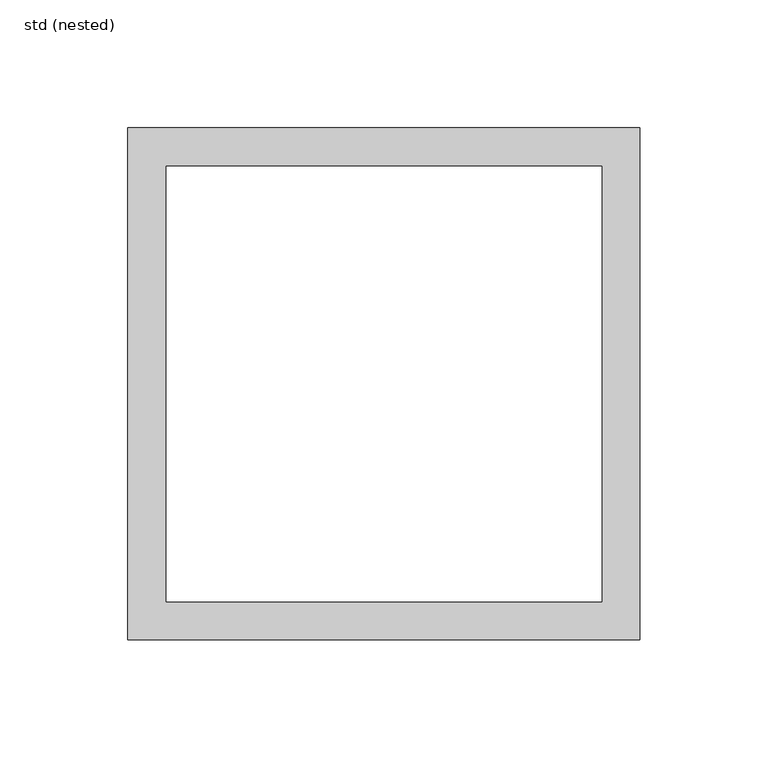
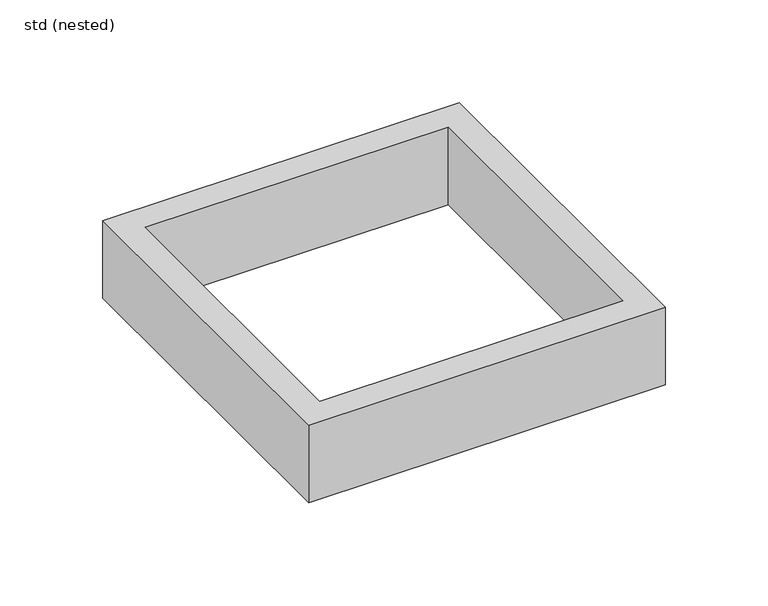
"""IFC4 building model written with IfcOpenShell, lengths in millimetres: sanitary terminal geometry, ZZZ_do_not_use_PF_CI_UN_top frame_ACO : std (nested)."""

import ifcopenshell
import ifcopenshell.guid

model = None  # the IFC model being written
_history = None  # IfcOwnerHistory: only IFC2X3 demands one
_inside = {}  # id of a spatial element -> (the spatial element, [elements in it])
_under = {}  # id of a project, library or spatial element -> (it, [spatial elements below it])
_declared = {}  # id of a project -> (the project, [libraries it declares])
_typed = {}  # id of a type object -> (the type object, [elements of that type])
_made_of = {}  # id of a material, layer set ... -> (it, [elements and type objects made of it])


def new_model(schema):
    """Start an empty IFC model of exactly this schema.

    Asked for "IFC4X3", IfcOpenShell would pick the latest addendum, in which some entities
    have other attributes; the version numbers below select the first issue.
    IFC2X3 requires an IfcOwnerHistory on every rooted entity: one is made here for all.
    """
    global model, _history
    if schema == "IFC4X3":
        model = ifcopenshell.file(schema_version=(4, 3, 0, 0))
    else:
        model = ifcopenshell.file(schema=schema)
    _inside.clear()
    _under.clear()
    _declared.clear()
    _typed.clear()
    _made_of.clear()
    _history = None
    if model.schema == "IFC2X3":
        org = make("IfcOrganization", Name="unknown")
        user = make(
            "IfcPersonAndOrganization",
            ThePerson=make("IfcPerson", FamilyName="unknown"),
            TheOrganization=org,
        )
        app = make(
            "IfcApplication",
            ApplicationDeveloper=org,
            Version="unknown",
            ApplicationFullName="unknown",
            ApplicationIdentifier="unknown",
        )
        _history = make(
            "IfcOwnerHistory",
            OwningUser=user,
            OwningApplication=app,
            ChangeAction="ADDED",
            CreationDate=0,
        )
    return model


def make(cls, **values):
    """One entity of the class cls with the attributes given. An attribute that is None is left unset."""
    return model.create_entity(
        cls, **{name: value for name, value in values.items() if value is not None}
    )


def rooted(cls, **values):
    """An entity with a GlobalId (a new one), such as an element, a storey or a relation."""
    return make(cls, GlobalId=ifcopenshell.guid.new(), OwnerHistory=_history, **values)


def si_unit(unit_type, name, prefix=None):
    """IfcSIUnit, for example si_unit("LENGTHUNIT", "METRE", prefix="MILLI")."""
    return make("IfcSIUnit", UnitType=unit_type, Prefix=prefix, Name=name)


def assignment(units):
    """IfcUnitAssignment: the units of a project."""
    return None if units is None else make("IfcUnitAssignment", Units=units)


def point(xyz):
    """IfcCartesianPoint."""
    return None if xyz is None else make("IfcCartesianPoint", Coordinates=xyz)


def direction(xyz):
    """IfcDirection."""
    return None if xyz is None else make("IfcDirection", DirectionRatios=xyz)


def frame(location, z_axis=None, x_axis=None):
    """IfcAxis2Placement3D, a coordinate frame: its origin and axes. An axis left out is left unset."""
    return make(
        "IfcAxis2Placement3D",
        Location=point(location),
        Axis=direction(z_axis),
        RefDirection=direction(x_axis),
    )


def origin():
    """The frame at (0, 0, 0) with its axes left unset."""
    return frame((0.0, 0.0, 0.0))


def place(relative_to, where):
    """IfcLocalPlacement: puts the frame where relative to a parent placement (None: the world)."""
    return make(
        "IfcLocalPlacement", PlacementRelTo=relative_to, RelativePlacement=where
    )


def context(
    kind, dimensions, precision=None, world=None, true_north=None, identifier=None
):
    """IfcGeometricRepresentationContext, for example the 3D "Model" context."""
    return make(
        "IfcGeometricRepresentationContext",
        ContextIdentifier=identifier,
        ContextType=kind,
        CoordinateSpaceDimension=dimensions,
        Precision=precision,
        WorldCoordinateSystem=world,
        TrueNorth=true_north,
    )


def project(units=None, contexts=None):
    """IfcProject with its units and contexts."""
    return rooted(
        "IfcProject",
        Name="project",
        RepresentationContexts=contexts,
        UnitsInContext=assignment(units),
    )


def spatial(cls, under=None, at=None, **own):
    """A site, building, storey or space (cls), placed at a placement, below another one or the project."""
    s = rooted(cls, ObjectPlacement=at, **own)
    if under is not None:
        _under.setdefault(under.id(), (under, []))[1].append(s)
    return s


def polyline(points):
    """IfcPolyline through the points."""
    return make("IfcPolyline", Points=[point(p) for p in points])


def outline(outer, holes=None, kind="AREA"):
    """IfcArbitraryClosedProfileDef: a profile drawn as a closed curve; with holes, ...WithVoids."""
    if holes is None:
        return make("IfcArbitraryClosedProfileDef", ProfileType=kind, OuterCurve=outer)
    return make(
        "IfcArbitraryProfileDefWithVoids",
        ProfileType=kind,
        OuterCurve=outer,
        InnerCurves=holes,
    )


def extrude(swept, where, along, depth):
    """IfcExtrudedAreaSolid: the profile swept, set in the frame where, extruded along a direction by depth."""
    return make(
        "IfcExtrudedAreaSolid",
        SweptArea=swept,
        Position=where,
        ExtrudedDirection=direction(along),
        Depth=depth,
    )


def shape(context_of_items, identifier, shape_type, items):
    """IfcShapeRepresentation: the items that make up one representation, for example the "Body"."""
    return make(
        "IfcShapeRepresentation",
        ContextOfItems=context_of_items,
        RepresentationIdentifier=identifier,
        RepresentationType=shape_type,
        Items=items,
    )


def source(mapping_origin, context_of_items, identifier, shape_type, items):
    """IfcRepresentationMap: a shape defined once, which mapped items show again and again."""
    return make(
        "IfcRepresentationMap",
        MappingOrigin=mapping_origin,
        MappedRepresentation=shape(context_of_items, identifier, shape_type, items),
    )


def transform(
    local_origin,
    x_axis=None,
    y_axis=None,
    z_axis=None,
    scale=None,
    scale2=None,
    scale3=None,
    uniform=True,
):
    """IfcCartesianTransformationOperator3D, or its non-uniform kind. x_axis, y_axis, z_axis: its Axis1, 2, 3."""
    if uniform:
        return make(
            "IfcCartesianTransformationOperator3D",
            Axis1=direction(x_axis),
            Axis2=direction(y_axis),
            LocalOrigin=point(local_origin),
            Scale=scale,
            Axis3=direction(z_axis),
        )
    return make(
        "IfcCartesianTransformationOperator3DnonUniform",
        Axis1=direction(x_axis),
        Axis2=direction(y_axis),
        LocalOrigin=point(local_origin),
        Scale=scale,
        Axis3=direction(z_axis),
        Scale2=scale2,
        Scale3=scale3,
    )


def mapped(mapping_source, mapping_target):
    """IfcMappedItem: shows the shape of a source again, moved by a transform."""
    return make(
        "IfcMappedItem", MappingSource=mapping_source, MappingTarget=mapping_target
    )


def made_of(thing, what):
    """Note that an element or type object is made of a material, layer set ...; save() writes the relation."""
    if what is not None:
        _made_of.setdefault(what.id(), (what, []))[1].append(thing)
    return thing


def element(
    cls,
    number,
    at=None,
    inside=None,
    cuts=None,
    type_object=None,
    material=None,
    context=None,
    identifier="Body",
    shape_type=None,
    held_by="IfcProductDefinitionShape",
    body=None,
    shapes=None,
    **own,
):
    """One element of the class cls, such as IfcWall. Its Tag is "e" and its number.

    at: its placement. inside: the storey or other place that contains it. cuts: it is an
    opening in that element (IfcRelVoidsElement). A single representation is given by context,
    identifier, shape_type and body (its items); several are given by shapes. held_by: the class
    of the entity that holds the representations. save() writes the other relations.
    """
    e = rooted(cls, Tag="e%d" % number, ObjectPlacement=at, **own)
    if body is not None:
        shapes = [shape(context, identifier, shape_type, body)]
    if shapes is not None:
        e.Representation = make(held_by, Representations=shapes)
    if inside is not None:
        _inside.setdefault(inside.id(), (inside, []))[1].append(e)
    if cuts is not None:
        rooted(
            "IfcRelVoidsElement", RelatingBuildingElement=cuts, RelatedOpeningElement=e
        )
    if type_object is not None:
        _typed.setdefault(type_object.id(), (type_object, []))[1].append(e)
    return made_of(e, material)


def aggregate(whole, parts):
    """IfcRelAggregates: a whole, such as a stair, and the parts it consists of."""
    return rooted("IfcRelAggregates", RelatingObject=whole, RelatedObjects=parts)


def save(model, path):
    """Write the relations noted so far, then the file.

    IfcRelAggregates (storeys below a building ...), IfcRelContainedInSpatialStructure (elements
    in a storey), IfcRelDefinesByType, IfcRelAssociatesMaterial and IfcRelDeclares: one each for
    every whole, place, type object, material and project.
    """
    for whole, parts in _under.values():
        aggregate(whole, parts)
    for where, things in _inside.values():
        rooted(
            "IfcRelContainedInSpatialStructure",
            RelatedElements=things,
            RelatingStructure=where,
        )
    for kind, things in _typed.values():
        rooted("IfcRelDefinesByType", RelatedObjects=things, RelatingType=kind)
    for what, things in _made_of.values():
        rooted("IfcRelAssociatesMaterial", RelatedObjects=things, RelatingMaterial=what)
    for by, libraries in _declared.values():
        rooted("IfcRelDeclares", RelatingContext=by, RelatedDefinitions=libraries)
    model.write(path)


def std_nested_6f6e67ac(model_context):
    return source(origin(), model_context, "Body", "SweptSolid", [
        extrude(outline(polyline([(100.0, 100.0), (100.0, -100.0), (-100.0, -100.0), (-100.0, 100.0), (100.0, 100.0)]), holes=[polyline([(85.0, 85.0), (-85.0, 85.0), (-85.0, -85.0), (85.0, -85.0), (85.0, 85.0)])]), frame((0.0, 0.0, -46.0), z_axis=(0.0, 0.0, 1.0), x_axis=(1.0, 0.0, 0.0)), (0.0, 0.0, 1.0), 46.0),
    ])


if __name__ == "__main__":
    model = new_model("IFC4")
    model_context = context("Model", 3, world=origin())
    ifc_project = project(units=[si_unit("LENGTHUNIT", "METRE", prefix="MILLI")], contexts=[model_context])
    site = spatial("IfcSite", under=ifc_project)
    building = spatial("IfcBuilding", under=site)
    placement = place(None, origin())
    std_nested_shape = std_nested_6f6e67ac(model_context)
    element("IfcSanitaryTerminal", 1, ObjectType="ZZZ_do_not_use_PF_CI_UN_top frame_ACO : std (nested)", at=placement, inside=building, context=model_context, shape_type="MappedRepresentation", body=[
        mapped(std_nested_shape, transform((0.0, 0.0, 0.0), x_axis=(1.0, 0.0, 0.0), y_axis=(0.0, 1.0, 0.0), z_axis=(0.0, 0.0, 1.0))),
    ])
    save(model, "model.ifc")
